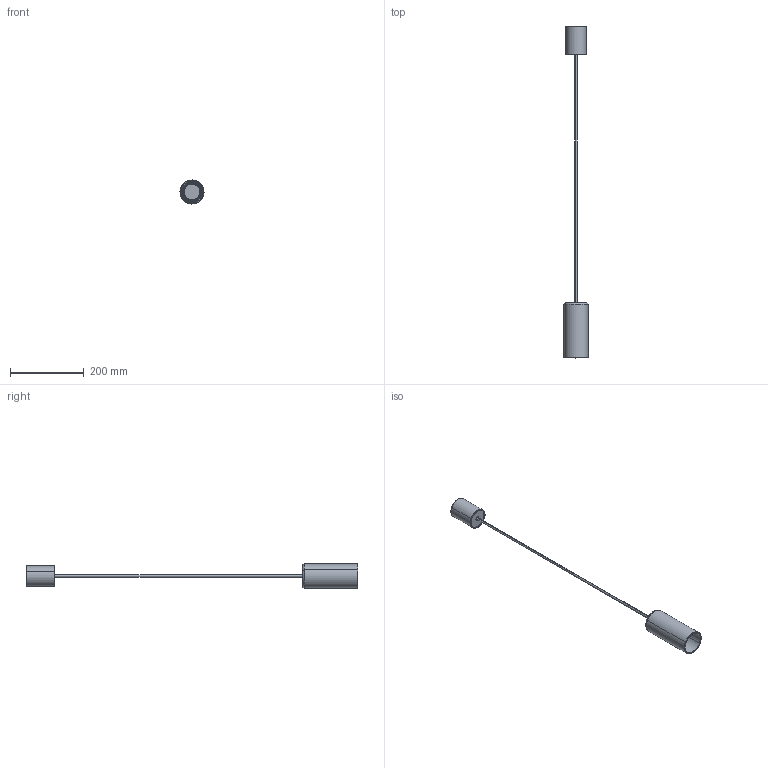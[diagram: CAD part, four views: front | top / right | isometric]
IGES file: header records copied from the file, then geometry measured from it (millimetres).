
Start section: SolidWorks IGES file using analytic representation for surfaces
Global section: file name: Z:\Modele 3D_WWW\_KOLEKCJE_WWW\CYLINDER\CYLINDER-S-7866-7870\CYLINDER-S-7866-7870.IGS; native system: SolidWorks 2021; preprocessor: SolidWorks 2021; author: gabriela.tworek; date: 210719.095516; units: millimetre
Bounding box: 65 x 899 x 65 mm (x, y, z)
Surface area: 152934.8 mm2 (no closed solid volume)
Topology: 0 solids, 0 shells, 90 faces, 2293 edges, 2293 vertices
Faces by surface type: bspline 56, revolution 34
